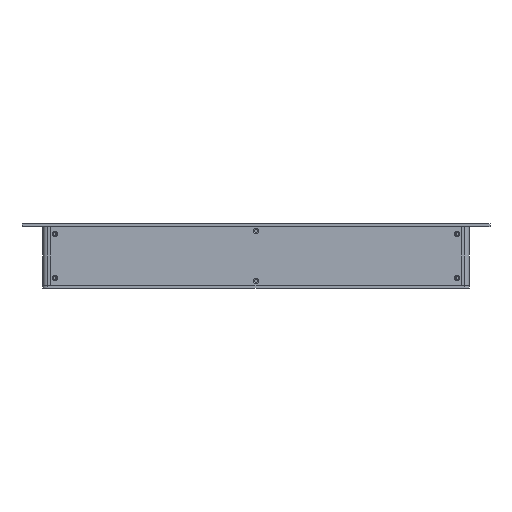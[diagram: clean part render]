
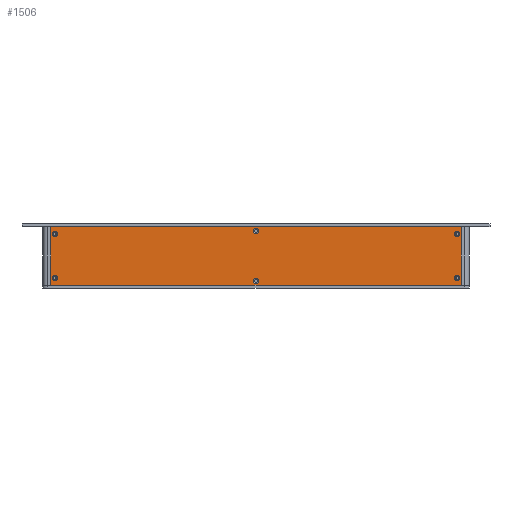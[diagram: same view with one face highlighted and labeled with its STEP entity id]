
A CAD part, front view. The second image highlights one B-rep face of the part: STEP entity #1506.
In plain terms, the highlighted planar face has unit normal (0, -1, 0) as drawn and (0, 1, 0) by its records, which use the part's own axes.
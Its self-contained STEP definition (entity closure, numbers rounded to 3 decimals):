
#207 = AXIS2_PLACEMENT_3D ( 'NONE', #9528, #13724, #15089 ) ;
#284 = EDGE_LOOP ( 'NONE', ( #2041, #2490, #18054, #2815 ) ) ;
#321 = CARTESIAN_POINT ( 'NONE',  ( 207.5, 0.75, -4.7 ) ) ;
#656 = PLANE ( 'NONE',  #9731 ) ;
#728 = CARTESIAN_POINT ( 'NONE',  ( 211.6, 0.75, 0. ) ) ;
#813 = ORIENTED_EDGE ( 'NONE', *, *, #8199, .T. ) ;
#831 = DIRECTION ( 'NONE',  ( 0., 1., 0. ) ) ;
#922 = FACE_BOUND ( 'NONE', #11901, .T. ) ;
#935 = DIRECTION ( 'NONE',  ( -1., 0., 0. ) ) ;
#955 = ORIENTED_EDGE ( 'NONE', *, *, #2150, .T. ) ;
#1170 = DIRECTION ( 'NONE',  ( 0., 0., 1. ) ) ;
#1193 = ORIENTED_EDGE ( 'NONE', *, *, #13665, .T. ) ;
#1313 = VERTEX_POINT ( 'NONE', #11697 ) ;
#1337 = AXIS2_PLACEMENT_3D ( 'NONE', #11573, #14663, #4532 ) ;
#1506 = ADVANCED_FACE ( 'NONE', ( #16252, #3846, #922, #14610, #7759, #13152, #6565 ), #656, .T. ) ;
#2041 = ORIENTED_EDGE ( 'NONE', *, *, #13159, .F. ) ;
#2048 = AXIS2_PLACEMENT_3D ( 'NONE', #10588, #10220, #11685 ) ;
#2150 = EDGE_CURVE ( 'NONE', #5944, #7351, #3095, .T. ) ;
#2218 = CIRCLE ( 'NONE', #1337, 2.8 ) ;
#2311 = EDGE_LOOP ( 'NONE', ( #15243, #5018 ) ) ;
#2429 = EDGE_CURVE ( 'NONE', #13939, #2570, #2218, .T. ) ;
#2490 = ORIENTED_EDGE ( 'NONE', *, *, #8073, .F. ) ;
#2491 = CARTESIAN_POINT ( 'NONE',  ( -211.6, 0.75, -60. ) ) ;
#2556 = DIRECTION ( 'NONE',  ( 0., 0., 1. ) ) ;
#2570 = VERTEX_POINT ( 'NONE', #13658 ) ;
#2751 = CARTESIAN_POINT ( 'NONE',  ( -211.6, 0.75, 0. ) ) ;
#2815 = ORIENTED_EDGE ( 'NONE', *, *, #3480, .T. ) ;
#2831 = DIRECTION ( 'NONE',  ( 0., -1., 0. ) ) ;
#3095 = CIRCLE ( 'NONE', #17035, 2.8 ) ;
#3121 = AXIS2_PLACEMENT_3D ( 'NONE', #15836, #8906, #17126 ) ;
#3253 = EDGE_CURVE ( 'NONE', #9533, #6178, #15147, .T. ) ;
#3480 = EDGE_CURVE ( 'NONE', #5197, #6815, #15045, .T. ) ;
#3734 = CARTESIAN_POINT ( 'NONE',  ( -207.5, 0.75, -55.3 ) ) ;
#3846 = FACE_BOUND ( 'NONE', #4859, .T. ) ;
#4021 = VERTEX_POINT ( 'NONE', #321 ) ;
#4206 = DIRECTION ( 'NONE',  ( -1., 0., 0. ) ) ;
#4351 = EDGE_CURVE ( 'NONE', #4021, #13308, #17702, .T. ) ;
#4532 = DIRECTION ( 'NONE',  ( 0., 0., 1. ) ) ;
#4659 = CARTESIAN_POINT ( 'NONE',  ( 0., 0.75, -55.7 ) ) ;
#4715 = CIRCLE ( 'NONE', #12577, 2.8 ) ;
#4859 = EDGE_LOOP ( 'NONE', ( #10976, #955 ) ) ;
#4941 = EDGE_LOOP ( 'NONE', ( #9739, #6382 ) ) ;
#5018 = ORIENTED_EDGE ( 'NONE', *, *, #14284, .T. ) ;
#5197 = VERTEX_POINT ( 'NONE', #17688 ) ;
#5772 = DIRECTION ( 'NONE',  ( 0., 0., 1. ) ) ;
#5874 = CARTESIAN_POINT ( 'NONE',  ( -207.5, 0.75, -4.7 ) ) ;
#5944 = VERTEX_POINT ( 'NONE', #8963 ) ;
#5949 = EDGE_CURVE ( 'NONE', #6178, #9533, #16766, .T. ) ;
#6178 = VERTEX_POINT ( 'NONE', #9011 ) ;
#6301 = VERTEX_POINT ( 'NONE', #10663 ) ;
#6382 = ORIENTED_EDGE ( 'NONE', *, *, #3253, .T. ) ;
#6493 = CARTESIAN_POINT ( 'NONE',  ( 0., 0.75, -7.1 ) ) ;
#6565 = FACE_OUTER_BOUND ( 'NONE', #284, .T. ) ;
#6584 = CIRCLE ( 'NONE', #6884, 2.8 ) ;
#6680 = EDGE_CURVE ( 'NONE', #6301, #5197, #7776, .T. ) ;
#6783 = CARTESIAN_POINT ( 'NONE',  ( 211.6, 0.75, -60. ) ) ;
#6815 = VERTEX_POINT ( 'NONE', #8851 ) ;
#6872 = ORIENTED_EDGE ( 'NONE', *, *, #15241, .T. ) ;
#6884 = AXIS2_PLACEMENT_3D ( 'NONE', #16045, #13487, #12208 ) ;
#7119 = DIRECTION ( 'NONE',  ( 0., -1., 0. ) ) ;
#7143 = AXIS2_PLACEMENT_3D ( 'NONE', #11797, #10430, #15986 ) ;
#7351 = VERTEX_POINT ( 'NONE', #11403 ) ;
#7759 = FACE_BOUND ( 'NONE', #12117, .T. ) ;
#7776 = LINE ( 'NONE', #2491, #16223 ) ;
#7856 = CARTESIAN_POINT ( 'NONE',  ( 207.5, 0.75, -55.3 ) ) ;
#8073 = EDGE_CURVE ( 'NONE', #6301, #16178, #10906, .T. ) ;
#8099 = ORIENTED_EDGE ( 'NONE', *, *, #4351, .T. ) ;
#8199 = EDGE_CURVE ( 'NONE', #1313, #13064, #11776, .T. ) ;
#8357 = AXIS2_PLACEMENT_3D ( 'NONE', #9091, #17576, #15014 ) ;
#8666 = EDGE_LOOP ( 'NONE', ( #813, #6872 ) ) ;
#8794 = DIRECTION ( 'NONE',  ( 0., -1., 0. ) ) ;
#8851 = CARTESIAN_POINT ( 'NONE',  ( -211.6, 0.75, 0. ) ) ;
#8862 = DIRECTION ( 'NONE',  ( 0., 0., 1. ) ) ;
#8906 = DIRECTION ( 'NONE',  ( 0., -1., 0. ) ) ;
#8963 = CARTESIAN_POINT ( 'NONE',  ( 0., 0.75, -58.5 ) ) ;
#9011 = CARTESIAN_POINT ( 'NONE',  ( 0., 0.75, -1.5 ) ) ;
#9091 = CARTESIAN_POINT ( 'NONE',  ( -207.5, 0.75, -52.5 ) ) ;
#9221 = CIRCLE ( 'NONE', #17953, 2.8 ) ;
#9527 = CIRCLE ( 'NONE', #8357, 2.8 ) ;
#9528 = CARTESIAN_POINT ( 'NONE',  ( 207.5, 0.75, -7.5 ) ) ;
#9533 = VERTEX_POINT ( 'NONE', #6493 ) ;
#9662 = DIRECTION ( 'NONE',  ( 0., 0., 1. ) ) ;
#9731 = AXIS2_PLACEMENT_3D ( 'NONE', #10421, #831, #17721 ) ;
#9737 = AXIS2_PLACEMENT_3D ( 'NONE', #9991, #8794, #5772 ) ;
#9739 = ORIENTED_EDGE ( 'NONE', *, *, #5949, .T. ) ;
#9991 = CARTESIAN_POINT ( 'NONE',  ( 207.5, 0.75, -52.5 ) ) ;
#10220 = DIRECTION ( 'NONE',  ( 0., -1., 0. ) ) ;
#10226 = CARTESIAN_POINT ( 'NONE',  ( 207.5, 0.75, -10.3 ) ) ;
#10352 = ORIENTED_EDGE ( 'NONE', *, *, #2429, .T. ) ;
#10421 = CARTESIAN_POINT ( 'NONE',  ( -211.6, 0.75, -60. ) ) ;
#10430 = DIRECTION ( 'NONE',  ( 0., -1., 0. ) ) ;
#10505 = VECTOR ( 'NONE', #2556, 1000. ) ;
#10588 = CARTESIAN_POINT ( 'NONE',  ( 0., 0.75, -4.3 ) ) ;
#10663 = CARTESIAN_POINT ( 'NONE',  ( 211.6, 0.75, -60. ) ) ;
#10820 = VECTOR ( 'NONE', #4206, 1000. ) ;
#10860 = CARTESIAN_POINT ( 'NONE',  ( -211.6, 0.75, -60. ) ) ;
#10894 = AXIS2_PLACEMENT_3D ( 'NONE', #4659, #11523, #8862 ) ;
#10906 = LINE ( 'NONE', #6783, #11200 ) ;
#10933 = VERTEX_POINT ( 'NONE', #13662 ) ;
#10976 = ORIENTED_EDGE ( 'NONE', *, *, #17295, .T. ) ;
#11061 = DIRECTION ( 'NONE',  ( 0., 0., 1. ) ) ;
#11081 = DIRECTION ( 'NONE',  ( 0., 0., 1. ) ) ;
#11200 = VECTOR ( 'NONE', #11081, 1000. ) ;
#11403 = CARTESIAN_POINT ( 'NONE',  ( 0., 0.75, -52.9 ) ) ;
#11523 = DIRECTION ( 'NONE',  ( 0., -1., 0. ) ) ;
#11573 = CARTESIAN_POINT ( 'NONE',  ( -207.5, 0.75, -7.5 ) ) ;
#11685 = DIRECTION ( 'NONE',  ( 0., 0., 1. ) ) ;
#11697 = CARTESIAN_POINT ( 'NONE',  ( 207.5, 0.75, -49.7 ) ) ;
#11776 = CIRCLE ( 'NONE', #9737, 2.8 ) ;
#11797 = CARTESIAN_POINT ( 'NONE',  ( 0., 0.75, -4.3 ) ) ;
#11901 = EDGE_LOOP ( 'NONE', ( #8099, #12681 ) ) ;
#12117 = EDGE_LOOP ( 'NONE', ( #10352, #1193 ) ) ;
#12130 = CARTESIAN_POINT ( 'NONE',  ( 0., 0.75, -55.7 ) ) ;
#12208 = DIRECTION ( 'NONE',  ( 0., 0., 1. ) ) ;
#12577 = AXIS2_PLACEMENT_3D ( 'NONE', #18052, #2831, #9662 ) ;
#12681 = ORIENTED_EDGE ( 'NONE', *, *, #14955, .T. ) ;
#13064 = VERTEX_POINT ( 'NONE', #7856 ) ;
#13152 = FACE_BOUND ( 'NONE', #2311, .T. ) ;
#13159 = EDGE_CURVE ( 'NONE', #16178, #6815, #15242, .T. ) ;
#13308 = VERTEX_POINT ( 'NONE', #10226 ) ;
#13487 = DIRECTION ( 'NONE',  ( 0., -1., 0. ) ) ;
#13494 = DIRECTION ( 'NONE',  ( 0., -1., 0. ) ) ;
#13606 = CIRCLE ( 'NONE', #3121, 2.8 ) ;
#13658 = CARTESIAN_POINT ( 'NONE',  ( -207.5, 0.75, -10.3 ) ) ;
#13662 = CARTESIAN_POINT ( 'NONE',  ( -207.5, 0.75, -49.7 ) ) ;
#13665 = EDGE_CURVE ( 'NONE', #2570, #13939, #4715, .T. ) ;
#13724 = DIRECTION ( 'NONE',  ( 0., -1., 0. ) ) ;
#13841 = VERTEX_POINT ( 'NONE', #3734 ) ;
#13939 = VERTEX_POINT ( 'NONE', #5874 ) ;
#14284 = EDGE_CURVE ( 'NONE', #13841, #10933, #9221, .T. ) ;
#14610 = FACE_BOUND ( 'NONE', #8666, .T. ) ;
#14663 = DIRECTION ( 'NONE',  ( 0., -1., 0. ) ) ;
#14955 = EDGE_CURVE ( 'NONE', #13308, #4021, #6584, .T. ) ;
#15014 = DIRECTION ( 'NONE',  ( 0., 0., 1. ) ) ;
#15045 = LINE ( 'NONE', #10860, #10505 ) ;
#15089 = DIRECTION ( 'NONE',  ( 0., 0., 1. ) ) ;
#15147 = CIRCLE ( 'NONE', #2048, 2.8 ) ;
#15241 = EDGE_CURVE ( 'NONE', #13064, #1313, #13606, .T. ) ;
#15242 = LINE ( 'NONE', #2751, #10820 ) ;
#15243 = ORIENTED_EDGE ( 'NONE', *, *, #15401, .T. ) ;
#15345 = CARTESIAN_POINT ( 'NONE',  ( -207.5, 0.75, -52.5 ) ) ;
#15401 = EDGE_CURVE ( 'NONE', #10933, #13841, #9527, .T. ) ;
#15836 = CARTESIAN_POINT ( 'NONE',  ( 207.5, 0.75, -52.5 ) ) ;
#15986 = DIRECTION ( 'NONE',  ( 0., 0., 1. ) ) ;
#16045 = CARTESIAN_POINT ( 'NONE',  ( 207.5, 0.75, -7.5 ) ) ;
#16178 = VERTEX_POINT ( 'NONE', #728 ) ;
#16223 = VECTOR ( 'NONE', #935, 1000. ) ;
#16252 = FACE_BOUND ( 'NONE', #4941, .T. ) ;
#16766 = CIRCLE ( 'NONE', #7143, 2.8 ) ;
#17009 = CIRCLE ( 'NONE', #10894, 2.8 ) ;
#17035 = AXIS2_PLACEMENT_3D ( 'NONE', #12130, #13494, #1170 ) ;
#17126 = DIRECTION ( 'NONE',  ( 0., 0., 1. ) ) ;
#17295 = EDGE_CURVE ( 'NONE', #7351, #5944, #17009, .T. ) ;
#17576 = DIRECTION ( 'NONE',  ( 0., -1., 0. ) ) ;
#17688 = CARTESIAN_POINT ( 'NONE',  ( -211.6, 0.75, -60. ) ) ;
#17702 = CIRCLE ( 'NONE', #207, 2.8 ) ;
#17721 = DIRECTION ( 'NONE',  ( 0., 0., 1. ) ) ;
#17953 = AXIS2_PLACEMENT_3D ( 'NONE', #15345, #7119, #11061 ) ;
#18052 = CARTESIAN_POINT ( 'NONE',  ( -207.5, 0.75, -7.5 ) ) ;
#18054 = ORIENTED_EDGE ( 'NONE', *, *, #6680, .T. ) ;
